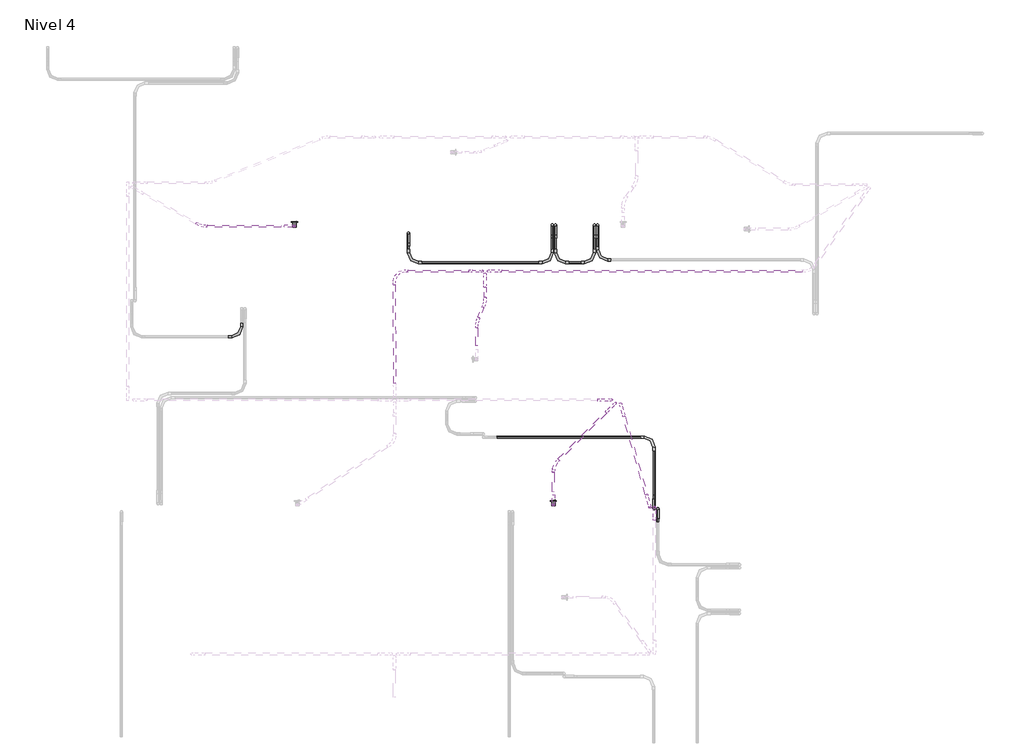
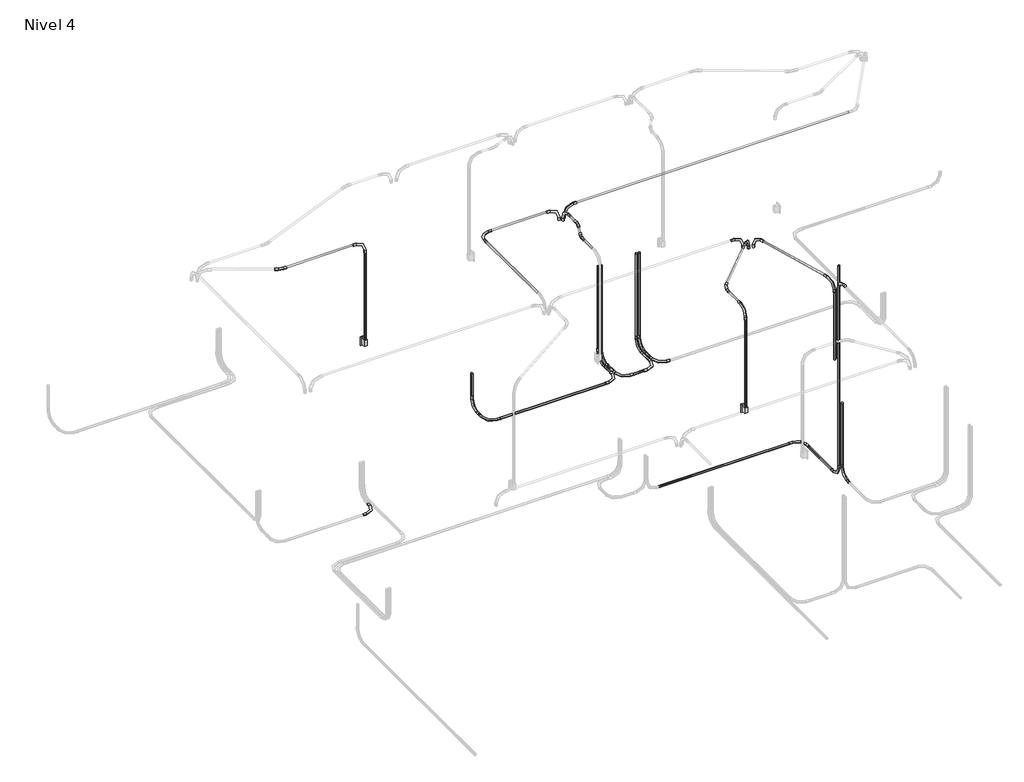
# One storey, part 8 of 9: 30 cable carrier segments, 29 cable carrier fittings, 2 switching devices.
"""IFC4 building model written with IfcOpenShell, lengths in millimetres."""

from ifc_helpers import new_model, si_unit, point, frame, frame_2d, origin, place, context, project, spatial, circle_curve, trimmed, segment, composite_curve, outline, extrude, transform, mapped, element, save
from components import m_codo_de_tubo_extremo_liso_pvc_9da73e12, m_codo_de_tubo_extremo_liso_pvc_102f0f41, m_codo_de_tubo_extremo_liso_pvc_251627db, m_codo_de_tubo_extremo_liso_pvc_2ef7902a, m_codo_de_tubo_extremo_liso_pvc_be22f626, m_codo_de_tubo_extremo_liso_pvc_8d6d9c39, switching_device_22fed34b

model = new_model("IFC4")

# Units and contexts
model_context = context("Model", 3, world=origin())
ifc_project = project(units=[si_unit("LENGTHUNIT", "METRE", prefix="MILLI")], contexts=[model_context])

# Site, building, storey
site = spatial("IfcSite", under=ifc_project)
building = spatial("IfcBuilding", under=site)
storey = spatial("IfcBuildingStorey", under=building, Name="Nivel 4", Elevation=8100.0)

# Cable carrier fittings
placement = place(None, origin())
m_codo_de_tubo_extremo_liso_pvc_shape = m_codo_de_tubo_extremo_liso_pvc_9da73e12(model_context)
element("IfcCableCarrierFitting", 1, ObjectType="M_Codo de tubo - Extremo liso - PVC : CODO POTENCIA", at=placement, inside=storey, context=model_context, shape_type="MappedRepresentation", body=[
    mapped(m_codo_de_tubo_extremo_liso_pvc_shape, transform((4205.019202, 15520.3628882, 8030.0), x_axis=(0.0, 0.0, -1.0), y_axis=(0.0, -1.0, 0.0), z_axis=(-1.0, 0.0, 0.0))),
])
element("IfcCableCarrierFitting", 2, ObjectType="M_Codo de tubo - Extremo liso - PVC : CODO POTENCIA", at=placement, inside=storey, context=model_context, shape_type="MappedRepresentation", body=[
    mapped(m_codo_de_tubo_extremo_liso_pvc_shape, transform((4241.0828417, 15520.3628882, 8030.0), x_axis=(0.0, 0.0, -1.0), y_axis=(0.0, -1.0, 0.0), z_axis=(-1.0, 0.0, 0.0))),
])
element("IfcCableCarrierFitting", 3, ObjectType="M_Codo de tubo - Extremo liso - PVC : CODO POTENCIA", at=placement, inside=storey, context=model_context, shape_type="MappedRepresentation", body=[
    mapped(m_codo_de_tubo_extremo_liso_pvc_shape, transform((4686.8857412, 15520.3628882, 8030.0), x_axis=(0.0, 0.0, -1.0), y_axis=(0.0, -1.0, 0.0), z_axis=(-1.0, 0.0, 0.0))),
])
element("IfcCableCarrierFitting", 4, ObjectType="M_Codo de tubo - Extremo liso - PVC : CODO POTENCIA", at=placement, inside=storey, context=model_context, shape_type="MappedRepresentation", body=[
    mapped(m_codo_de_tubo_extremo_liso_pvc_shape, transform((4722.9493809, 15520.3628882, 8030.0), x_axis=(0.0, 0.0, -1.0), y_axis=(0.0, -1.0, 0.0), z_axis=(-1.0, 0.0, 0.0))),
])
element("IfcCableCarrierFitting", 5, ObjectType="M_Codo de tubo - Extremo liso - PVC : CODO POTENCIA", at=placement, inside=storey, context=model_context, shape_type="MappedRepresentation", body=[
    mapped(m_codo_de_tubo_extremo_liso_pvc_shape, transform((2562.4928095, 15429.6371118, 8030.0), x_axis=(0.0, 0.0, -1.0), y_axis=(0.0, -1.0, 0.0), z_axis=(-1.0, 0.0, 0.0))),
])
element("IfcCableCarrierFitting", 6, ObjectType="M_Codo de tubo - Extremo liso - PVC : CODO POTENCIA", at=placement, inside=storey, context=model_context, shape_type="MappedRepresentation", body=[
    mapped(m_codo_de_tubo_extremo_liso_pvc_shape, transform((4205.019202, 15089.6371118, 8030.0), x_axis=(1.0, 0.0, 0.0), y_axis=(0.0, 1.0, 0.0), z_axis=(0.0, 0.0, 1.0))),
])
element("IfcCableCarrierFitting", 7, ObjectType="M_Codo de tubo - Extremo liso - PVC : CODO POTENCIA", at=placement, inside=storey, context=model_context, shape_type="MappedRepresentation", body=[
    mapped(m_codo_de_tubo_extremo_liso_pvc_shape, transform((2562.4928095, 15089.6371118, 8030.0), x_axis=(0.0, -1.0, 0.0), y_axis=(1.0, 0.0, 0.0), z_axis=(0.0, 0.0, 1.0))),
])
element("IfcCableCarrierFitting", 8, ObjectType="M_Codo de tubo - Extremo liso - PVC : CODO POTENCIA", at=placement, inside=storey, context=model_context, shape_type="MappedRepresentation", body=[
    mapped(m_codo_de_tubo_extremo_liso_pvc_shape, transform((4686.8857412, 15089.6371118, 8030.0), x_axis=(1.0, 0.0, 0.0), y_axis=(0.0, 1.0, 0.0), z_axis=(0.0, 0.0, 1.0))),
])
element("IfcCableCarrierFitting", 9, ObjectType="M_Codo de tubo - Extremo liso - PVC : CODO POTENCIA", at=placement, inside=storey, context=model_context, shape_type="MappedRepresentation", body=[
    mapped(m_codo_de_tubo_extremo_liso_pvc_shape, transform((4241.0828417, 15089.6371118, 8030.0), x_axis=(0.0, -1.0, 0.0), y_axis=(1.0, 0.0, 0.0), z_axis=(0.0, 0.0, 1.0))),
])
element("IfcCableCarrierFitting", 10, ObjectType="M_Codo de tubo - Extremo liso - PVC : CODO POTENCIA", at=placement, inside=storey, context=model_context, shape_type="MappedRepresentation", body=[
    mapped(m_codo_de_tubo_extremo_liso_pvc_shape, transform((4722.9493809, 15120.3628882, 8030.0), x_axis=(0.0, -1.0, 0.0), y_axis=(1.0, 0.0, 0.0), z_axis=(0.0, 0.0, 1.0))),
])
element("IfcCableCarrierFitting", 11, ObjectType="M_Codo de tubo - Extremo liso - PVC : CODO POTENCIA", at=placement, inside=storey, context=model_context, shape_type="MappedRepresentation", body=[
    mapped(m_codo_de_tubo_extremo_liso_pvc_shape, transform((5369.121413, 13095.2791789, 8030.0), x_axis=(0.0, 1.0, 0.0), y_axis=(-1.0, 0.0, 0.0), z_axis=(0.0, 0.0, 1.0))),
])
element("IfcCableCarrierFitting", 12, ObjectType="M_Codo de tubo - Extremo liso - PVC : CODO POTENCIA", at=placement, inside=storey, context=model_context, shape_type="MappedRepresentation", body=[
    mapped(m_codo_de_tubo_extremo_liso_pvc_shape, transform((657.4498733, 14243.117219, 8030.0), x_axis=(1.0, 0.0, 0.0), y_axis=(0.0, 1.0, 0.0), z_axis=(0.0, 0.0, 1.0))),
])
element("IfcCableCarrierFitting", 13, ObjectType="M_Codo de tubo - Extremo liso - PVC : CODO POTENCIA", at=placement, inside=storey, context=model_context, shape_type="MappedRepresentation", body=[
    mapped(m_codo_de_tubo_extremo_liso_pvc_shape, transform((5369.121413, 12279.3432469, 8030.0), x_axis=(0.0, -1.0, 0.0), y_axis=(0.0, 0.0, 1.0), z_axis=(-1.0, 0.0, 0.0))),
])
element("IfcCableCarrierFitting", 14, ObjectType="M_Codo de tubo - Extremo liso - PVC : CODO POTENCIA", at=placement, inside=storey, context=model_context, shape_type="MappedRepresentation", body=[
    mapped(m_codo_de_tubo_extremo_liso_pvc_shape, transform((5411.447338, 12279.3432469, 8030.0), x_axis=(0.0, 1.0, 0.0), y_axis=(0.0, 0.0, 1.0), z_axis=(1.0, 0.0, 0.0))),
])
element("IfcCableCarrierFitting", 15, ObjectType="M_Codo de tubo - Extremo liso - PVC : CODO ILUMINACION", at=placement, inside=storey, context=model_context, shape_type="MappedRepresentation", body=[
    mapped(m_codo_de_tubo_extremo_liso_pvc_shape, transform((3473.8320808, 14993.0705266, 10650.0), x_axis=(-1.0, 0.0, 0.0), y_axis=(0.0, 0.0, -1.0), z_axis=(0.0, -1.0, 0.0))),
])
element("IfcCableCarrierFitting", 16, ObjectType="M_Codo de tubo - Extremo liso - PVC : CODO ILUMINACION", at=placement, inside=storey, context=model_context, shape_type="MappedRepresentation", body=[
    mapped(m_codo_de_tubo_extremo_liso_pvc_shape, transform((1260.0916868, 15506.8611243, 10650.0), x_axis=(0.0, 0.0, 1.0), y_axis=(-1.0, 0.0, 0.0), z_axis=(0.0, -1.0, 0.0))),
])
element("IfcCableCarrierFitting", 17, ObjectType="M_Codo de tubo - Extremo liso - PVC : CODO ILUMINACION", at=placement, inside=storey, context=model_context, shape_type="MappedRepresentation", body=[
    mapped(m_codo_de_tubo_extremo_liso_pvc_shape, transform((4983.2376641, 13478.0991033, 10650.0), x_axis=(-0.27563735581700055, 0.9612616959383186, 0.0), y_axis=(0.0, 0.0, -1.0000000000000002), z_axis=(-0.9612616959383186, -0.27563735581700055, 0.0))),
])
element("IfcCableCarrierFitting", 18, ObjectType="M_Codo de tubo - Extremo liso - PVC : CODO ILUMINACION", at=placement, inside=storey, context=model_context, shape_type="MappedRepresentation", body=[
    mapped(m_codo_de_tubo_extremo_liso_pvc_shape, transform((4926.5703208, 13485.4270766, 10650.0), x_axis=(0.7071067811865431, 0.707106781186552, 0.0), y_axis=(0.0, 0.0, -1.0), z_axis=(-0.707106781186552, 0.7071067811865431, 0.0))),
])
element("IfcCableCarrierFitting", 19, ObjectType="M_Codo de tubo - Extremo liso - PVC : CODO ILUMINACION", at=placement, inside=storey, context=model_context, shape_type="MappedRepresentation", body=[
    mapped(m_codo_de_tubo_extremo_liso_pvc_shape, transform((5322.9331414, 12293.4401892, 10650.0), x_axis=(0.2756373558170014, -0.9612616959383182, 0.0), y_axis=(0.0, 0.0, -1.0), z_axis=(0.9612616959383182, 0.2756373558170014, 0.0))),
])
element("IfcCableCarrierFitting", 20, ObjectType="M_Codo de tubo - Extremo liso - PVC : CODO ILUMINACION", at=placement, inside=storey, context=model_context, shape_type="MappedRepresentation", body=[
    mapped(m_codo_de_tubo_extremo_liso_pvc_shape, transform((4218.3978911, 12321.8611243, 10650.0), x_axis=(0.0, 0.0, 1.0), y_axis=(0.0, 1.0, 0.0), z_axis=(-1.0, 0.0, 0.0))),
])
element("IfcCableCarrierFitting", 21, ObjectType="M_Codo de tubo - Extremo liso - PVC : CODO ILUMINACION", at=placement, inside=storey, context=model_context, shape_type="MappedRepresentation", body=[
    mapped(m_codo_de_tubo_extremo_liso_pvc_shape, transform((5372.6243482, 12295.9653349, 10650.0), x_axis=(0.0, 1.0, 0.0), y_axis=(0.0, 0.0, -1.0), z_axis=(-1.0, 0.0, 0.0))),
])
m_codo_de_tubo_extremo_liso_pvc_2_shape = m_codo_de_tubo_extremo_liso_pvc_102f0f41(model_context)
element("IfcCableCarrierFitting", 22, ObjectType="M_Codo de tubo - Extremo liso - PVC : CODO ILUMINACION", at=placement, inside=storey, context=model_context, shape_type="MappedRepresentation", body=[
    mapped(m_codo_de_tubo_extremo_liso_pvc_2_shape, transform((3405.7998975, 14991.7385915, 10650.0), x_axis=(1.0, 0.0, 0.0), y_axis=(0.0, 0.0, 1.0), z_axis=(0.0, -1.0, 0.0))),
])
element("IfcCableCarrierFitting", 23, ObjectType="M_Codo de tubo - Extremo liso - PVC : CODO ILUMINACION", at=placement, inside=storey, context=model_context, shape_type="MappedRepresentation", body=[
    mapped(m_codo_de_tubo_extremo_liso_pvc_2_shape, transform((4879.8406576, 13521.2601744, 10650.0), x_axis=(1.0, 0.0, 0.0), y_axis=(0.0, 0.0, 1.0), z_axis=(0.0, -1.0, 0.0))),
])
element("IfcCableCarrierFitting", 24, ObjectType="M_Codo de tubo - Extremo liso - PVC : CODO ILUMINACION", at=placement, inside=storey, context=model_context, shape_type="MappedRepresentation", body=[
    mapped(m_codo_de_tubo_extremo_liso_pvc_2_shape, transform((3437.3696394, 14959.3016042, 10650.0), x_axis=(0.0, 1.0, 0.0), y_axis=(0.0, 0.0, 1.0), z_axis=(1.0, 0.0, 0.0))),
])
m_codo_de_tubo_extremo_liso_pvc_3_shape = m_codo_de_tubo_extremo_liso_pvc_251627db(model_context)
element("IfcCableCarrierFitting", 25, ObjectType="M_Codo de tubo - Extremo liso - PVC : CODO ILUMINACION", at=placement, inside=storey, context=model_context, shape_type="MappedRepresentation", body=[
    mapped(m_codo_de_tubo_extremo_liso_pvc_3_shape, transform((196.8317011, 15506.8611243, 10650.0), x_axis=(0.8722808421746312, -0.48900524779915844, 0.0), y_axis=(0.48900524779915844, 0.8722808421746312, 0.0), z_axis=(0.0, 0.0, 1.0))),
])
m_codo_de_tubo_extremo_liso_pvc_4_shape = m_codo_de_tubo_extremo_liso_pvc_2ef7902a(model_context)
element("IfcCableCarrierFitting", 26, ObjectType="M_Codo de tubo - Extremo liso - PVC : CODO ILUMINACION", at=placement, inside=storey, context=model_context, shape_type="MappedRepresentation", body=[
    mapped(m_codo_de_tubo_extremo_liso_pvc_4_shape, transform((3437.3696394, 14633.0300725, 10650.0), x_axis=(0.38237306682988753, 0.924008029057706, 0.0), y_axis=(-0.924008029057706, 0.38237306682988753, 0.0), z_axis=(0.0, 0.0, 1.0))),
])
element("IfcCableCarrierFitting", 27, ObjectType="M_Codo de tubo - Extremo liso - PVC : CODO ILUMINACION", at=placement, inside=storey, context=model_context, shape_type="MappedRepresentation", body=[
    mapped(m_codo_de_tubo_extremo_liso_pvc_4_shape, transform((3343.1394564, 14405.3219698, 10650.0), x_axis=(-0.3823730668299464, -0.9240080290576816, 0.0), y_axis=(0.9240080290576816, -0.3823730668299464, 0.0), z_axis=(0.0, 0.0, 1.0))),
])
m_codo_de_tubo_extremo_liso_pvc_5_shape = m_codo_de_tubo_extremo_liso_pvc_be22f626(model_context)
element("IfcCableCarrierFitting", 28, ObjectType="M_Codo de tubo - Extremo liso - PVC : CODO ILUMINACION", at=placement, inside=storey, context=model_context, shape_type="MappedRepresentation", body=[
    mapped(m_codo_de_tubo_extremo_liso_pvc_5_shape, transform((2400.0109021, 14991.7385915, 10650.0), x_axis=(-1.0, 0.0, 0.0), y_axis=(0.0, -1.0, 0.0), z_axis=(0.0, 0.0, 1.0))),
])
m_codo_de_tubo_extremo_liso_pvc_6_shape = m_codo_de_tubo_extremo_liso_pvc_8d6d9c39(model_context)
element("IfcCableCarrierFitting", 29, ObjectType="M_Codo de tubo - Extremo liso - PVC : CODO ILUMINACION", at=placement, inside=storey, context=model_context, shape_type="MappedRepresentation", body=[
    mapped(m_codo_de_tubo_extremo_liso_pvc_6_shape, transform((4218.3978911, 12777.2546469, 10650.0), x_axis=(-0.7071067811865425, -0.7071067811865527, 0.0), y_axis=(0.7071067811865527, -0.7071067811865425, 0.0), z_axis=(0.0, 0.0, 1.0))),
])

# Cable carrier segments
element("IfcCableCarrierSegment", 30, ObjectType="PVC-SEL, POTENCIA", at=placement, inside=storey, context=model_context, shape_type="SweptSolid", body=[
    extrude(outline(composite_curve([segment(trimmed(circle_curve(frame_2d((8030.0, 4205.019202)), 11.71), [point((8030.0, 4193.309202))], [point((8018.29, 4205.019202))], False, "CARTESIAN"), True, "CONTINUOUS"), segment(trimmed(circle_curve(frame_2d((8030.0, 4205.019202)), 11.71), [point((8018.29, 4205.019202))], [point((8030.0, 4216.729202))], False, "CARTESIAN"), True, "CONTINUOUS"), segment(trimmed(circle_curve(frame_2d((8030.0, 4205.019202)), 11.71), [point((8030.0, 4216.729202))], [point((8041.71, 4205.019202))], False, "CARTESIAN"), True, "CONTINUOUS"), segment(trimmed(circle_curve(frame_2d((8030.0, 4205.019202)), 11.71), [point((8041.71, 4205.019202))], [point((8030.0, 4193.309202))], False, "CARTESIAN"), True, "CONTINUOUS")], self_intersect=False)), frame((0.0, 15242.0371118, 0.0), z_axis=(0.0, 1.0, 0.0), x_axis=(0.0, 0.0, 1.0)), (0.0, 0.0, 1.0), 125.9257764),
])
element("IfcCableCarrierSegment", 31, ObjectType="PVC-SEL, POTENCIA", at=placement, inside=storey, context=model_context, shape_type="SweptSolid", body=[
    extrude(outline(composite_curve([segment(trimmed(circle_curve(frame_2d((4205.019202, 15520.3628882)), 11.71), [point((4216.729202, 15520.3628882))], [point((4205.019202, 15508.6528882))], False, "CARTESIAN"), True, "CONTINUOUS"), segment(trimmed(circle_curve(frame_2d((4205.019202, 15520.3628882)), 11.71), [point((4205.019202, 15508.6528882))], [point((4193.309202, 15520.3628882))], False, "CARTESIAN"), True, "CONTINUOUS"), segment(trimmed(circle_curve(frame_2d((4205.019202, 15520.3628882)), 11.71), [point((4193.309202, 15520.3628882))], [point((4205.019202, 15532.0728882))], False, "CARTESIAN"), True, "CONTINUOUS"), segment(trimmed(circle_curve(frame_2d((4205.019202, 15520.3628882)), 11.71), [point((4205.019202, 15532.0728882))], [point((4216.729202, 15520.3628882))], False, "CARTESIAN"), True, "CONTINUOUS")], self_intersect=False)), frame((0.0, 0.0, 8182.4), z_axis=(0.0, 0.0, 1.0), x_axis=(1.0, 0.0, 0.0)), (0.0, 0.0, 1.0), 1097.3020537),
])
element("IfcCableCarrierSegment", 32, ObjectType="PVC-SEL, POTENCIA", at=placement, inside=storey, context=model_context, shape_type="SweptSolid", body=[
    extrude(outline(composite_curve([segment(trimmed(circle_curve(frame_2d((8030.0, 4241.0828417)), 11.71), [point((8030.0, 4229.3728417))], [point((8018.29, 4241.0828417))], False, "CARTESIAN"), True, "CONTINUOUS"), segment(trimmed(circle_curve(frame_2d((8030.0, 4241.0828417)), 11.71), [point((8018.29, 4241.0828417))], [point((8030.0, 4252.7928417))], False, "CARTESIAN"), True, "CONTINUOUS"), segment(trimmed(circle_curve(frame_2d((8030.0, 4241.0828417)), 11.71), [point((8030.0, 4252.7928417))], [point((8041.71, 4241.0828417))], False, "CARTESIAN"), True, "CONTINUOUS"), segment(trimmed(circle_curve(frame_2d((8030.0, 4241.0828417)), 11.71), [point((8041.71, 4241.0828417))], [point((8030.0, 4229.3728417))], False, "CARTESIAN"), True, "CONTINUOUS")], self_intersect=False)), frame((0.0, 15242.0371118, 0.0), z_axis=(0.0, 1.0, 0.0), x_axis=(0.0, 0.0, 1.0)), (0.0, 0.0, 1.0), 125.9257764),
])
element("IfcCableCarrierSegment", 33, ObjectType="PVC-SEL, POTENCIA", at=placement, inside=storey, context=model_context, shape_type="SweptSolid", body=[
    extrude(outline(composite_curve([segment(trimmed(circle_curve(frame_2d((4241.0828417, 15520.3628882)), 11.71), [point((4252.7928417, 15520.3628882))], [point((4241.0828417, 15508.6528882))], False, "CARTESIAN"), True, "CONTINUOUS"), segment(trimmed(circle_curve(frame_2d((4241.0828417, 15520.3628882)), 11.71), [point((4241.0828417, 15508.6528882))], [point((4229.3728417, 15520.3628882))], False, "CARTESIAN"), True, "CONTINUOUS"), segment(trimmed(circle_curve(frame_2d((4241.0828417, 15520.3628882)), 11.71), [point((4229.3728417, 15520.3628882))], [point((4241.0828417, 15532.0728882))], False, "CARTESIAN"), True, "CONTINUOUS"), segment(trimmed(circle_curve(frame_2d((4241.0828417, 15520.3628882)), 11.71), [point((4241.0828417, 15532.0728882))], [point((4252.7928417, 15520.3628882))], False, "CARTESIAN"), True, "CONTINUOUS")], self_intersect=False)), frame((0.0, 0.0, 8182.4), z_axis=(0.0, 0.0, 1.0), x_axis=(1.0, 0.0, 0.0)), (0.0, 0.0, 1.0), 1097.3020537),
])
element("IfcCableCarrierSegment", 34, ObjectType="PVC-SEL, POTENCIA", at=placement, inside=storey, context=model_context, shape_type="SweptSolid", body=[
    extrude(outline(composite_curve([segment(trimmed(circle_curve(frame_2d((8030.0, 4686.8857412)), 11.71), [point((8030.0, 4675.1757412))], [point((8018.29, 4686.8857412))], False, "CARTESIAN"), True, "CONTINUOUS"), segment(trimmed(circle_curve(frame_2d((8030.0, 4686.8857412)), 11.71), [point((8018.29, 4686.8857412))], [point((8030.0, 4698.5957412))], False, "CARTESIAN"), True, "CONTINUOUS"), segment(trimmed(circle_curve(frame_2d((8030.0, 4686.8857412)), 11.71), [point((8030.0, 4698.5957412))], [point((8041.71, 4686.8857412))], False, "CARTESIAN"), True, "CONTINUOUS"), segment(trimmed(circle_curve(frame_2d((8030.0, 4686.8857412)), 11.71), [point((8041.71, 4686.8857412))], [point((8030.0, 4675.1757412))], False, "CARTESIAN"), True, "CONTINUOUS")], self_intersect=False)), frame((0.0, 15242.0371118, 0.0), z_axis=(0.0, 1.0, 0.0), x_axis=(0.0, 0.0, 1.0)), (0.0, 0.0, 1.0), 125.9257764),
])
element("IfcCableCarrierSegment", 35, ObjectType="PVC-SEL, POTENCIA", at=placement, inside=storey, context=model_context, shape_type="SweptSolid", body=[
    extrude(outline(composite_curve([segment(trimmed(circle_curve(frame_2d((4686.8857412, 15520.3628882)), 11.71), [point((4698.5957412, 15520.3628882))], [point((4686.8857412, 15508.6528882))], False, "CARTESIAN"), True, "CONTINUOUS"), segment(trimmed(circle_curve(frame_2d((4686.8857412, 15520.3628882)), 11.71), [point((4686.8857412, 15508.6528882))], [point((4675.1757412, 15520.3628882))], False, "CARTESIAN"), True, "CONTINUOUS"), segment(trimmed(circle_curve(frame_2d((4686.8857412, 15520.3628882)), 11.71), [point((4675.1757412, 15520.3628882))], [point((4686.8857412, 15532.0728882))], False, "CARTESIAN"), True, "CONTINUOUS"), segment(trimmed(circle_curve(frame_2d((4686.8857412, 15520.3628882)), 11.71), [point((4686.8857412, 15532.0728882))], [point((4698.5957412, 15520.3628882))], False, "CARTESIAN"), True, "CONTINUOUS")], self_intersect=False)), frame((0.0, 0.0, 8182.4), z_axis=(0.0, 0.0, 1.0), x_axis=(1.0, 0.0, 0.0)), (0.0, 0.0, 1.0), 1097.3020537),
])
element("IfcCableCarrierSegment", 36, ObjectType="PVC-SEL, POTENCIA", at=placement, inside=storey, context=model_context, shape_type="SweptSolid", body=[
    extrude(outline(composite_curve([segment(trimmed(circle_curve(frame_2d((8030.0, 4722.9493809)), 11.71), [point((8030.0, 4711.2393809))], [point((8018.29, 4722.9493809))], False, "CARTESIAN"), True, "CONTINUOUS"), segment(trimmed(circle_curve(frame_2d((8030.0, 4722.9493809)), 11.71), [point((8018.29, 4722.9493809))], [point((8030.0, 4734.6593809))], False, "CARTESIAN"), True, "CONTINUOUS"), segment(trimmed(circle_curve(frame_2d((8030.0, 4722.9493809)), 11.71), [point((8030.0, 4734.6593809))], [point((8041.71, 4722.9493809))], False, "CARTESIAN"), True, "CONTINUOUS"), segment(trimmed(circle_curve(frame_2d((8030.0, 4722.9493809)), 11.71), [point((8041.71, 4722.9493809))], [point((8030.0, 4711.2393809))], False, "CARTESIAN"), True, "CONTINUOUS")], self_intersect=False)), frame((0.0, 15272.7628882, 0.0), z_axis=(0.0, 1.0, 0.0), x_axis=(0.0, 0.0, 1.0)), (0.0, 0.0, 1.0), 95.2),
])
element("IfcCableCarrierSegment", 37, ObjectType="PVC-SEL, POTENCIA", at=placement, inside=storey, context=model_context, shape_type="SweptSolid", body=[
    extrude(outline(composite_curve([segment(trimmed(circle_curve(frame_2d((4722.9493809, 15520.3628882)), 11.71), [point((4734.6593809, 15520.3628882))], [point((4722.9493809, 15508.6528882))], False, "CARTESIAN"), True, "CONTINUOUS"), segment(trimmed(circle_curve(frame_2d((4722.9493809, 15520.3628882)), 11.71), [point((4722.9493809, 15508.6528882))], [point((4711.2393809, 15520.3628882))], False, "CARTESIAN"), True, "CONTINUOUS"), segment(trimmed(circle_curve(frame_2d((4722.9493809, 15520.3628882)), 11.71), [point((4711.2393809, 15520.3628882))], [point((4722.9493809, 15532.0728882))], False, "CARTESIAN"), True, "CONTINUOUS"), segment(trimmed(circle_curve(frame_2d((4722.9493809, 15520.3628882)), 11.71), [point((4722.9493809, 15532.0728882))], [point((4734.6593809, 15520.3628882))], False, "CARTESIAN"), True, "CONTINUOUS")], self_intersect=False)), frame((0.0, 0.0, 8182.4), z_axis=(0.0, 0.0, 1.0), x_axis=(1.0, 0.0, 0.0)), (0.0, 0.0, 1.0), 1097.3020537),
])
element("IfcCableCarrierSegment", 38, ObjectType="PVC-SEL, POTENCIA", at=placement, inside=storey, context=model_context, shape_type="SweptSolid", body=[
    extrude(outline(composite_curve([segment(trimmed(circle_curve(frame_2d((8030.0, 2562.4928095)), 11.71), [point((8030.0, 2550.7828095))], [point((8018.29, 2562.4928095))], False, "CARTESIAN"), True, "CONTINUOUS"), segment(trimmed(circle_curve(frame_2d((8030.0, 2562.4928095)), 11.71), [point((8018.29, 2562.4928095))], [point((8030.0, 2574.2028095))], False, "CARTESIAN"), True, "CONTINUOUS"), segment(trimmed(circle_curve(frame_2d((8030.0, 2562.4928095)), 11.71), [point((8030.0, 2574.2028095))], [point((8041.71, 2562.4928095))], False, "CARTESIAN"), True, "CONTINUOUS"), segment(trimmed(circle_curve(frame_2d((8030.0, 2562.4928095)), 11.71), [point((8041.71, 2562.4928095))], [point((8030.0, 2550.7828095))], False, "CARTESIAN"), True, "CONTINUOUS")], self_intersect=False)), frame((0.0, 15242.0371118, 0.0), z_axis=(0.0, 1.0, 0.0), x_axis=(0.0, 0.0, 1.0)), (0.0, 0.0, 1.0), 35.2),
])
element("IfcCableCarrierSegment", 39, ObjectType="PVC-SEL, POTENCIA", at=placement, inside=storey, context=model_context, shape_type="SweptSolid", body=[
    extrude(outline(composite_curve([segment(trimmed(circle_curve(frame_2d((2562.4928095, 15429.6371118)), 11.71), [point((2574.2028095, 15429.6371118))], [point((2562.4928095, 15417.9271118))], False, "CARTESIAN"), True, "CONTINUOUS"), segment(trimmed(circle_curve(frame_2d((2562.4928095, 15429.6371118)), 11.71), [point((2562.4928095, 15417.9271118))], [point((2550.7828095, 15429.6371118))], False, "CARTESIAN"), True, "CONTINUOUS"), segment(trimmed(circle_curve(frame_2d((2562.4928095, 15429.6371118)), 11.71), [point((2550.7828095, 15429.6371118))], [point((2562.4928095, 15441.3471118))], False, "CARTESIAN"), True, "CONTINUOUS"), segment(trimmed(circle_curve(frame_2d((2562.4928095, 15429.6371118)), 11.71), [point((2562.4928095, 15441.3471118))], [point((2574.2028095, 15429.6371118))], False, "CARTESIAN"), True, "CONTINUOUS")], self_intersect=False)), frame((0.0, 0.0, 8182.4), z_axis=(0.0, 0.0, 1.0), x_axis=(1.0, 0.0, 0.0)), (0.0, 0.0, 1.0), 297.3020537),
])
element("IfcCableCarrierSegment", 40, ObjectType="PVC-SEL, POTENCIA", at=placement, inside=storey, context=model_context, shape_type="SweptSolid", body=[
    extrude(outline(composite_curve([segment(trimmed(circle_curve(frame_2d((15089.6371118, 8030.0)), 11.71), [point((15101.3471118, 8030.0))], [point((15089.6371118, 8018.29))], False, "CARTESIAN"), True, "CONTINUOUS"), segment(trimmed(circle_curve(frame_2d((15089.6371118, 8030.0)), 11.71), [point((15089.6371118, 8018.29))], [point((15077.9271118, 8030.0))], False, "CARTESIAN"), True, "CONTINUOUS"), segment(trimmed(circle_curve(frame_2d((15089.6371118, 8030.0)), 11.71), [point((15077.9271118, 8030.0))], [point((15089.6371118, 8041.71))], False, "CARTESIAN"), True, "CONTINUOUS"), segment(trimmed(circle_curve(frame_2d((15089.6371118, 8030.0)), 11.71), [point((15089.6371118, 8041.71))], [point((15101.3471118, 8030.0))], False, "CARTESIAN"), True, "CONTINUOUS")], self_intersect=False)), frame((2714.8928095, 0.0, 0.0), z_axis=(1.0, 0.0, 0.0), x_axis=(0.0, 1.0, 0.0)), (0.0, 0.0, 1.0), 1337.7263925),
])
element("IfcCableCarrierSegment", 41, ObjectType="PVC-SEL, POTENCIA", at=placement, inside=storey, context=model_context, shape_type="SweptSolid", body=[
    extrude(outline(composite_curve([segment(trimmed(circle_curve(frame_2d((15089.6371118, 8030.0)), 11.71), [point((15101.3471118, 8030.0))], [point((15089.6371118, 8018.29))], False, "CARTESIAN"), True, "CONTINUOUS"), segment(trimmed(circle_curve(frame_2d((15089.6371118, 8030.0)), 11.71), [point((15089.6371118, 8018.29))], [point((15077.9271118, 8030.0))], False, "CARTESIAN"), True, "CONTINUOUS"), segment(trimmed(circle_curve(frame_2d((15089.6371118, 8030.0)), 11.71), [point((15077.9271118, 8030.0))], [point((15089.6371118, 8041.71))], False, "CARTESIAN"), True, "CONTINUOUS"), segment(trimmed(circle_curve(frame_2d((15089.6371118, 8030.0)), 11.71), [point((15089.6371118, 8041.71))], [point((15101.3471118, 8030.0))], False, "CARTESIAN"), True, "CONTINUOUS")], self_intersect=False)), frame((4393.4828417, 0.0, 0.0), z_axis=(1.0, 0.0, 0.0), x_axis=(0.0, 1.0, 0.0)), (0.0, 0.0, 1.0), 141.0028996),
])
element("IfcCableCarrierSegment", 42, ObjectType="PVC-SEL, POTENCIA", at=placement, inside=storey, context=model_context, shape_type="SweptSolid", body=[
    extrude(outline(composite_curve([segment(trimmed(circle_curve(frame_2d((13095.2791789, 8030.0)), 11.71), [point((13083.5691789, 8030.0))], [point((13095.2791789, 8041.71))], False, "CARTESIAN"), True, "CONTINUOUS"), segment(trimmed(circle_curve(frame_2d((13095.2791789, 8030.0)), 11.71), [point((13095.2791789, 8041.71))], [point((13106.9891789, 8030.0))], False, "CARTESIAN"), True, "CONTINUOUS"), segment(trimmed(circle_curve(frame_2d((13095.2791789, 8030.0)), 11.71), [point((13106.9891789, 8030.0))], [point((13095.2791789, 8018.29))], False, "CARTESIAN"), True, "CONTINUOUS"), segment(trimmed(circle_curve(frame_2d((13095.2791789, 8030.0)), 11.71), [point((13095.2791789, 8018.29))], [point((13083.5691789, 8030.0))], False, "CARTESIAN"), True, "CONTINUOUS")], self_intersect=False)), frame((3572.763469, 0.0, 0.0), z_axis=(1.0, 0.0, 0.0), x_axis=(0.0, 1.0, 0.0)), (0.0, 0.0, 1.0), 1643.957944),
])
element("IfcCableCarrierSegment", 43, ObjectType="PVC-SEL, POTENCIA", at=placement, inside=storey, context=model_context, shape_type="SweptSolid", body=[
    extrude(outline(composite_curve([segment(trimmed(circle_curve(frame_2d((8030.0, 5369.121413)), 11.71), [point((8030.0, 5357.411413))], [point((8018.29, 5369.121413))], False, "CARTESIAN"), True, "CONTINUOUS"), segment(trimmed(circle_curve(frame_2d((8030.0, 5369.121413)), 11.71), [point((8018.29, 5369.121413))], [point((8030.0, 5380.831413))], False, "CARTESIAN"), True, "CONTINUOUS"), segment(trimmed(circle_curve(frame_2d((8030.0, 5369.121413)), 11.71), [point((8030.0, 5380.831413))], [point((8041.71, 5369.121413))], False, "CARTESIAN"), True, "CONTINUOUS"), segment(trimmed(circle_curve(frame_2d((8030.0, 5369.121413)), 11.71), [point((8041.71, 5369.121413))], [point((8030.0, 5357.411413))], False, "CARTESIAN"), True, "CONTINUOUS")], self_intersect=False)), frame((0.0, 12431.7432469, 0.0), z_axis=(0.0, 1.0, 0.0), x_axis=(0.0, 0.0, 1.0)), (0.0, 0.0, 1.0), 511.135932),
])
element("IfcCableCarrierSegment", 44, ObjectType="PVC-SEL, POTENCIA", at=placement, inside=storey, context=model_context, shape_type="SweptSolid", body=[
    extrude(outline(composite_curve([segment(trimmed(circle_curve(frame_2d((5369.121413, 12279.3432469)), 11.71), [point((5357.411413, 12279.3432469))], [point((5369.121413, 12291.0532469))], False, "CARTESIAN"), True, "CONTINUOUS"), segment(trimmed(circle_curve(frame_2d((5369.121413, 12279.3432469)), 11.71), [point((5369.121413, 12291.0532469))], [point((5380.831413, 12279.3432469))], False, "CARTESIAN"), True, "CONTINUOUS"), segment(trimmed(circle_curve(frame_2d((5369.121413, 12279.3432469)), 11.71), [point((5380.831413, 12279.3432469))], [point((5369.121413, 12267.6332469))], False, "CARTESIAN"), True, "CONTINUOUS"), segment(trimmed(circle_curve(frame_2d((5369.121413, 12279.3432469)), 11.71), [point((5369.121413, 12267.6332469))], [point((5357.411413, 12279.3432469))], False, "CARTESIAN"), True, "CONTINUOUS")], self_intersect=False)), frame((0.0, 0.0, 8182.4), z_axis=(0.0, 0.0, 1.0), x_axis=(1.0, 0.0, 0.0)), (0.0, 0.0, 1.0), 2660.8),
])
element("IfcCableCarrierSegment", 45, ObjectType="PVC-SEL, POTENCIA", at=placement, inside=storey, context=model_context, shape_type="SweptSolid", body=[
    extrude(outline(composite_curve([segment(trimmed(circle_curve(frame_2d((5411.447338, 12279.3432469)), 11.71), [point((5399.737338, 12279.3432469))], [point((5411.447338, 12291.0532469))], False, "CARTESIAN"), True, "CONTINUOUS"), segment(trimmed(circle_curve(frame_2d((5411.447338, 12279.3432469)), 11.71), [point((5411.447338, 12291.0532469))], [point((5423.157338, 12279.3432469))], False, "CARTESIAN"), True, "CONTINUOUS"), segment(trimmed(circle_curve(frame_2d((5411.447338, 12279.3432469)), 11.71), [point((5423.157338, 12279.3432469))], [point((5411.447338, 12267.6332469))], False, "CARTESIAN"), True, "CONTINUOUS"), segment(trimmed(circle_curve(frame_2d((5411.447338, 12279.3432469)), 11.71), [point((5411.447338, 12267.6332469))], [point((5399.737338, 12279.3432469))], False, "CARTESIAN"), True, "CONTINUOUS")], self_intersect=False)), frame((0.0, 0.0, 8182.4), z_axis=(0.0, 0.0, 1.0), x_axis=(1.0, 0.0, 0.0)), (0.0, 0.0, 1.0), 817.6),
])
element("IfcCableCarrierSegment", 46, ObjectType="PVC-SEL ILUMINACION", at=placement, inside=storey, context=model_context, shape_type="SweptSolid", body=[
    extrude(outline(composite_curve([segment(trimmed(circle_curve(frame_2d((14993.0705266, 10650.0)), 11.71), [point((14981.3605266, 10650.0))], [point((14993.0705266, 10661.71))], False, "CARTESIAN"), True, "CONTINUOUS"), segment(trimmed(circle_curve(frame_2d((14993.0705266, 10650.0)), 11.71), [point((14993.0705266, 10661.71))], [point((15004.7805266, 10650.0))], False, "CARTESIAN"), True, "CONTINUOUS"), segment(trimmed(circle_curve(frame_2d((14993.0705266, 10650.0)), 11.71), [point((15004.7805266, 10650.0))], [point((14993.0705266, 10638.29))], False, "CARTESIAN"), True, "CONTINUOUS"), segment(trimmed(circle_curve(frame_2d((14993.0705266, 10650.0)), 11.71), [point((14993.0705266, 10638.29))], [point((14981.3605266, 10650.0))], False, "CARTESIAN"), True, "CONTINUOUS")], self_intersect=False)), frame((3626.2320808, 0.0, 0.0), z_axis=(1.0, 0.0, 0.0), x_axis=(0.0, 1.0, 0.0)), (0.0, 0.0, 1.0), 3435.9373975),
])
element("IfcCableCarrierSegment", 47, ObjectType="PVC-SEL ILUMINACION", at=placement, inside=storey, context=model_context, shape_type="SweptSolid", body=[
    extrude(outline(composite_curve([segment(trimmed(circle_curve(frame_2d((15506.8611243, 10650.0)), 11.71), [point((15518.5711243, 10650.0))], [point((15506.8611243, 10638.29))], False, "CARTESIAN"), True, "CONTINUOUS"), segment(trimmed(circle_curve(frame_2d((15506.8611243, 10650.0)), 11.71), [point((15506.8611243, 10638.29))], [point((15495.1511243, 10650.0))], False, "CARTESIAN"), True, "CONTINUOUS"), segment(trimmed(circle_curve(frame_2d((15506.8611243, 10650.0)), 11.71), [point((15495.1511243, 10650.0))], [point((15506.8611243, 10661.71))], False, "CARTESIAN"), True, "CONTINUOUS"), segment(trimmed(circle_curve(frame_2d((15506.8611243, 10650.0)), 11.71), [point((15506.8611243, 10661.71))], [point((15518.5711243, 10650.0))], False, "CARTESIAN"), True, "CONTINUOUS")], self_intersect=False)), frame((264.7847545, 0.0, 0.0), z_axis=(1.0, 0.0, 0.0), x_axis=(0.0, 1.0, 0.0)), (0.0, 0.0, 1.0), 842.9069324),
])
element("IfcCableCarrierSegment", 48, ObjectType="PVC-SEL ILUMINACION", at=placement, inside=storey, context=model_context, shape_type="SweptSolid", body=[
    extrude(outline(composite_curve([segment(trimmed(circle_curve(frame_2d((1260.0916868, 15506.8611243)), 11.71), [point((1248.3816868, 15506.8611243))], [point((1260.0916868, 15518.5711243))], False, "CARTESIAN"), True, "CONTINUOUS"), segment(trimmed(circle_curve(frame_2d((1260.0916868, 15506.8611243)), 11.71), [point((1260.0916868, 15518.5711243))], [point((1271.8016868, 15506.8611243))], False, "CARTESIAN"), True, "CONTINUOUS"), segment(trimmed(circle_curve(frame_2d((1260.0916868, 15506.8611243)), 11.71), [point((1271.8016868, 15506.8611243))], [point((1260.0916868, 15495.1511243))], False, "CARTESIAN"), True, "CONTINUOUS"), segment(trimmed(circle_curve(frame_2d((1260.0916868, 15506.8611243)), 11.71), [point((1260.0916868, 15495.1511243))], [point((1248.3816868, 15506.8611243))], False, "CARTESIAN"), True, "CONTINUOUS")], self_intersect=False)), frame((0.0, 0.0, 9340.2227463), z_axis=(0.0, 0.0, 1.0), x_axis=(1.0, 0.0, 0.0)), (0.0, 0.0, 1.0), 1157.3772537),
])
element("IfcCableCarrierSegment", 49, ObjectType="PVC-SEL ILUMINACION", at=placement, inside=storey, context=model_context, shape_type="SweptSolid", body=[
    extrude(outline(composite_curve([segment(trimmed(circle_curve(frame_2d((10650.0, 3343.1394564)), 11.71), [point((10650.0, 3354.8494564))], [point((10661.71, 3343.1394564))], False, "CARTESIAN"), True, "CONTINUOUS"), segment(trimmed(circle_curve(frame_2d((10650.0, 3343.1394564)), 11.71), [point((10661.71, 3343.1394564))], [point((10650.0, 3331.4294564))], False, "CARTESIAN"), True, "CONTINUOUS"), segment(trimmed(circle_curve(frame_2d((10650.0, 3343.1394564)), 11.71), [point((10650.0, 3331.4294564))], [point((10638.29, 3343.1394564))], False, "CARTESIAN"), True, "CONTINUOUS"), segment(trimmed(circle_curve(frame_2d((10650.0, 3343.1394564)), 11.71), [point((10638.29, 3343.1394564))], [point((10650.0, 3354.8494564))], False, "CARTESIAN"), True, "CONTINUOUS")], self_intersect=False)), frame((0.0, 14137.7219698, 0.0), z_axis=(0.0, 1.0, 0.0), x_axis=(0.0, 0.0, 1.0)), (0.0, 0.0, 1.0), 206.7842728),
])
element("IfcCableCarrierSegment", 50, ObjectType="PVC-SEL ILUMINACION", at=placement, inside=storey, context=model_context, shape_type="SweptSolid", body=[
    extrude(outline(composite_curve([segment(trimmed(circle_curve(frame_2d((0.0, -11.71)), 11.71), [point((-11.71, -11.71))], [point((0.0, 0.0))], False, "CARTESIAN"), True, "CONTINUOUS"), segment(trimmed(circle_curve(frame_2d((0.0, -11.71)), 11.71), [point((0.0, 0.0))], [point((11.71, -11.71))], False, "CARTESIAN"), True, "CONTINUOUS"), segment(trimmed(circle_curve(frame_2d((0.0, -11.71)), 11.71), [point((11.71, -11.71))], [point((0.0, -23.42))], False, "CARTESIAN"), True, "CONTINUOUS"), segment(trimmed(circle_curve(frame_2d((0.0, -11.71)), 11.71), [point((0.0, -23.42))], [point((-11.71, -11.71))], False, "CARTESIAN"), True, "CONTINUOUS")], self_intersect=False)), frame((3366.3937526, 14461.51619, 10638.29), z_axis=(0.3823730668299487, 0.9240080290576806, 0.0), x_axis=(0.9240080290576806, -0.3823730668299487, 0.0)), (0.0, 0.0, 1.0), 124.8037448),
])
element("IfcCableCarrierSegment", 51, ObjectType="PVC-SEL ILUMINACION", at=placement, inside=storey, context=model_context, shape_type="SweptSolid", body=[
    extrude(outline(composite_curve([segment(trimmed(circle_curve(frame_2d((10650.0, 3437.3696394)), 11.71), [point((10650.0, 3425.6596394))], [point((10638.29, 3437.3696394))], False, "CARTESIAN"), True, "CONTINUOUS"), segment(trimmed(circle_curve(frame_2d((10650.0, 3437.3696394)), 11.71), [point((10638.29, 3437.3696394))], [point((10650.0, 3449.0796394))], False, "CARTESIAN"), True, "CONTINUOUS"), segment(trimmed(circle_curve(frame_2d((10650.0, 3437.3696394)), 11.71), [point((10650.0, 3449.0796394))], [point((10661.71, 3437.3696394))], False, "CARTESIAN"), True, "CONTINUOUS"), segment(trimmed(circle_curve(frame_2d((10650.0, 3437.3696394)), 11.71), [point((10661.71, 3437.3696394))], [point((10650.0, 3425.6596394))], False, "CARTESIAN"), True, "CONTINUOUS")], self_intersect=False)), frame((0.0, 14693.8457997, 0.0), z_axis=(0.0, 1.0, 0.0), x_axis=(0.0, 0.0, 1.0)), (0.0, 0.0, 1.0), 113.0558045),
])
element("IfcCableCarrierSegment", 52, ObjectType="PVC-SEL ILUMINACION", at=placement, inside=storey, context=model_context, shape_type="SweptSolid", body=[
    extrude(outline(composite_curve([segment(trimmed(circle_curve(frame_2d((0.0, -11.71)), 11.71), [point((-11.7099999, -11.71))], [point((0.0, 0.0))], False, "CARTESIAN"), True, "CONTINUOUS"), segment(trimmed(circle_curve(frame_2d((0.0, -11.71)), 11.71), [point((0.0, 0.0))], [point((11.71, -11.71))], False, "CARTESIAN"), True, "CONTINUOUS"), segment(trimmed(circle_curve(frame_2d((0.0, -11.71)), 11.71), [point((11.71, -11.71))], [point((0.0, -23.42))], False, "CARTESIAN"), True, "CONTINUOUS"), segment(trimmed(circle_curve(frame_2d((0.0, -11.71)), 11.71), [point((0.0, -23.42))], [point((-11.7099999, -11.71))], False, "CARTESIAN"), True, "CONTINUOUS")], self_intersect=False)), frame((2404.657361, 13709.8881456, 10638.29), z_axis=(-0.003624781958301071, 0.9999934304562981, 0.0), x_axis=(0.9999934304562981, 0.003624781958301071, 0.0)), (0.0, 0.0, 1.0), 1129.043801),
])
element("IfcCableCarrierSegment", 53, ObjectType="PVC-SEL ILUMINACION", at=placement, inside=storey, context=model_context, shape_type="SweptSolid", body=[
    extrude(outline(composite_curve([segment(trimmed(circle_curve(frame_2d((14991.7385915, 10650.0)), 11.71), [point((15003.4485915, 10650.0))], [point((14991.7385915, 10638.29))], False, "CARTESIAN"), True, "CONTINUOUS"), segment(trimmed(circle_curve(frame_2d((14991.7385915, 10650.0)), 11.71), [point((14991.7385915, 10638.29))], [point((14980.0285915, 10650.0))], False, "CARTESIAN"), True, "CONTINUOUS"), segment(trimmed(circle_curve(frame_2d((14991.7385915, 10650.0)), 11.71), [point((14980.0285915, 10650.0))], [point((14991.7385915, 10661.71))], False, "CARTESIAN"), True, "CONTINUOUS"), segment(trimmed(circle_curve(frame_2d((14991.7385915, 10650.0)), 11.71), [point((14991.7385915, 10661.71))], [point((15003.4485915, 10650.0))], False, "CARTESIAN"), True, "CONTINUOUS")], self_intersect=False)), frame((2552.8259683, 0.0, 0.0), z_axis=(1.0, 0.0, 0.0), x_axis=(0.0, 1.0, 0.0)), (0.0, 0.0, 1.0), 700.5739292),
])
element("IfcCableCarrierSegment", 54, ObjectType="PVC-SEL ILUMINACION", at=placement, inside=storey, context=model_context, shape_type="SweptSolid", body=[
    extrude(outline(composite_curve([segment(trimmed(circle_curve(frame_2d((0.0, -11.71)), 11.71), [point((-11.71, -11.71))], [point((0.0, 0.0))], False, "CARTESIAN"), True, "CONTINUOUS"), segment(trimmed(circle_curve(frame_2d((0.0, -11.71)), 11.71), [point((0.0, 0.0))], [point((11.7100001, -11.71))], False, "CARTESIAN"), True, "CONTINUOUS"), segment(trimmed(circle_curve(frame_2d((0.0, -11.71)), 11.71), [point((11.7100001, -11.71))], [point((0.0, -23.42))], False, "CARTESIAN"), True, "CONTINUOUS"), segment(trimmed(circle_curve(frame_2d((0.0, -11.71)), 11.71), [point((0.0, -23.42))], [point((-11.71, -11.71))], False, "CARTESIAN"), True, "CONTINUOUS")], self_intersect=False)), frame((5280.9260084, 12439.9364716, 10638.29), z_axis=(-0.27563735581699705, 0.9612616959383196, 0.0), x_axis=(0.9612616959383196, 0.27563735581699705, 0.0)), (0.0, 0.0, 1.0), 927.6),
])
element("IfcCableCarrierSegment", 55, ObjectType="PVC-SEL ILUMINACION", at=placement, inside=storey, context=model_context, shape_type="SweptSolid", body=[
    extrude(outline(composite_curve([segment(trimmed(circle_curve(frame_2d((5322.9331414, 12293.4401892)), 11.71), [point((5311.2231414, 12293.4401892))], [point((5322.9331414, 12305.1501892))], False, "CARTESIAN"), True, "CONTINUOUS"), segment(trimmed(circle_curve(frame_2d((5322.9331414, 12293.4401892)), 11.71), [point((5322.9331414, 12305.1501892))], [point((5334.6431414, 12293.4401892))], False, "CARTESIAN"), True, "CONTINUOUS"), segment(trimmed(circle_curve(frame_2d((5322.9331414, 12293.4401892)), 11.71), [point((5334.6431414, 12293.4401892))], [point((5322.9331414, 12281.7301892))], False, "CARTESIAN"), True, "CONTINUOUS"), segment(trimmed(circle_curve(frame_2d((5322.9331414, 12293.4401892)), 11.71), [point((5322.9331414, 12281.7301892))], [point((5311.2231414, 12293.4401892))], False, "CARTESIAN"), True, "CONTINUOUS")], self_intersect=False)), frame((0.0, 0.0, 9600.0), z_axis=(0.0, 0.0, 1.0), x_axis=(1.0, 0.0, 0.0)), (0.0, 0.0, 1.0), 897.6),
])
element("IfcCableCarrierSegment", 56, ObjectType="PVC-SEL ILUMINACION", at=placement, inside=storey, context=model_context, shape_type="SweptSolid", body=[
    extrude(outline(composite_curve([segment(trimmed(circle_curve(frame_2d((10650.0, 4218.3978911)), 11.71), [point((10650.0, 4206.6878911))], [point((10638.29, 4218.3978911))], False, "CARTESIAN"), True, "CONTINUOUS"), segment(trimmed(circle_curve(frame_2d((10650.0, 4218.3978911)), 11.71), [point((10638.29, 4218.3978911))], [point((10650.0, 4230.1078911))], False, "CARTESIAN"), True, "CONTINUOUS"), segment(trimmed(circle_curve(frame_2d((10650.0, 4218.3978911)), 11.71), [point((10650.0, 4230.1078911))], [point((10661.71, 4218.3978911))], False, "CARTESIAN"), True, "CONTINUOUS"), segment(trimmed(circle_curve(frame_2d((10650.0, 4218.3978911)), 11.71), [point((10661.71, 4218.3978911))], [point((10650.0, 4206.6878911))], False, "CARTESIAN"), True, "CONTINUOUS")], self_intersect=False)), frame((0.0, 12474.2611243, 0.0), z_axis=(0.0, 1.0, 0.0), x_axis=(0.0, 0.0, 1.0)), (0.0, 0.0, 1.0), 217.5489124),
])
element("IfcCableCarrierSegment", 57, ObjectType="PVC-SEL ILUMINACION", at=placement, inside=storey, context=model_context, shape_type="SweptSolid", body=[
    extrude(outline(composite_curve([segment(trimmed(circle_curve(frame_2d((4218.3978911, 12321.8611243)), 11.71), [point((4206.6878911, 12321.8611243))], [point((4218.3978911, 12333.5711243))], False, "CARTESIAN"), True, "CONTINUOUS"), segment(trimmed(circle_curve(frame_2d((4218.3978911, 12321.8611243)), 11.71), [point((4218.3978911, 12333.5711243))], [point((4230.1078911, 12321.8611243))], False, "CARTESIAN"), True, "CONTINUOUS"), segment(trimmed(circle_curve(frame_2d((4218.3978911, 12321.8611243)), 11.71), [point((4230.1078911, 12321.8611243))], [point((4218.3978911, 12310.1511243))], False, "CARTESIAN"), True, "CONTINUOUS"), segment(trimmed(circle_curve(frame_2d((4218.3978911, 12321.8611243)), 11.71), [point((4218.3978911, 12310.1511243))], [point((4206.6878911, 12321.8611243))], False, "CARTESIAN"), True, "CONTINUOUS")], self_intersect=False)), frame((0.0, 0.0, 9340.2227463), z_axis=(0.0, 0.0, 1.0), x_axis=(1.0, 0.0, 0.0)), (0.0, 0.0, 1.0), 1157.3772537),
])
element("IfcCableCarrierSegment", 58, ObjectType="PVC-SEL ILUMINACION", at=placement, inside=storey, context=model_context, shape_type="SweptSolid", body=[
    extrude(outline(composite_curve([segment(trimmed(circle_curve(frame_2d((0.0, -11.71)), 11.71), [point((-11.71, -11.71))], [point((0.0, 0.0))], False, "CARTESIAN"), True, "CONTINUOUS"), segment(trimmed(circle_curve(frame_2d((0.0, -11.71)), 11.71), [point((0.0, 0.0))], [point((11.71, -11.71))], False, "CARTESIAN"), True, "CONTINUOUS"), segment(trimmed(circle_curve(frame_2d((0.0, -11.71)), 11.71), [point((11.71, -11.71))], [point((0.0, -23.42))], False, "CARTESIAN"), True, "CONTINUOUS"), segment(trimmed(circle_curve(frame_2d((0.0, -11.71)), 11.71), [point((0.0, -23.42))], [point((-11.71, -11.71))], False, "CARTESIAN"), True, "CONTINUOUS")], self_intersect=False)), frame((4278.8163544, 12837.6731102, 10638.29), z_axis=(0.707106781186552, 0.7071067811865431, 0.0), x_axis=(0.7071067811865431, -0.707106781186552, 0.0)), (0.0, 0.0, 1.0), 763.6624445),
])
element("IfcCableCarrierSegment", 59, ObjectType="PVC-SEL ILUMINACION", at=placement, inside=storey, context=model_context, shape_type="SweptSolid", body=[
    extrude(outline(composite_curve([segment(trimmed(circle_curve(frame_2d((5372.6243482, 12295.9653349)), 11.71), [point((5360.9143482, 12295.9653349))], [point((5372.6243482, 12307.6753349))], False, "CARTESIAN"), True, "CONTINUOUS"), segment(trimmed(circle_curve(frame_2d((5372.6243482, 12295.9653349)), 11.71), [point((5372.6243482, 12307.6753349))], [point((5384.3343482, 12295.9653349))], False, "CARTESIAN"), True, "CONTINUOUS"), segment(trimmed(circle_curve(frame_2d((5372.6243482, 12295.9653349)), 11.71), [point((5384.3343482, 12295.9653349))], [point((5372.6243482, 12284.2553349))], False, "CARTESIAN"), True, "CONTINUOUS"), segment(trimmed(circle_curve(frame_2d((5372.6243482, 12295.9653349)), 11.71), [point((5372.6243482, 12284.2553349))], [point((5360.9143482, 12295.9653349))], False, "CARTESIAN"), True, "CONTINUOUS")], self_intersect=False)), frame((0.0, 0.0, 9600.0), z_axis=(0.0, 0.0, 1.0), x_axis=(1.0, 0.0, 0.0)), (0.0, 0.0, 1.0), 897.6),
])

# Switching devices
switching_device_shape = switching_device_22fed34b(model_context)
element("IfcSwitchingDevice", 60, ObjectType="Interruptor : Tridireccional", at=placement, inside=storey, context=model_context, shape_type="MappedRepresentation", body=[
    mapped(switching_device_shape, transform((1260.0418412, 15550.0, 9300.0), x_axis=(-1.0, 0.0, 0.0), y_axis=(0.0, 0.0, 1.0), z_axis=(0.0, 1.0, 0.0))),
])
element("IfcSwitchingDevice", 61, ObjectType="Interruptor : Tridireccional", at=placement, inside=storey, context=model_context, shape_type="MappedRepresentation", body=[
    mapped(switching_device_shape, transform((4218.3480454, 12365.0, 9300.0), x_axis=(-1.0, 0.0, 0.0), y_axis=(0.0, 0.0, 1.0), z_axis=(0.0, 1.0, 0.0))),
])

save(model, "model.ifc")
